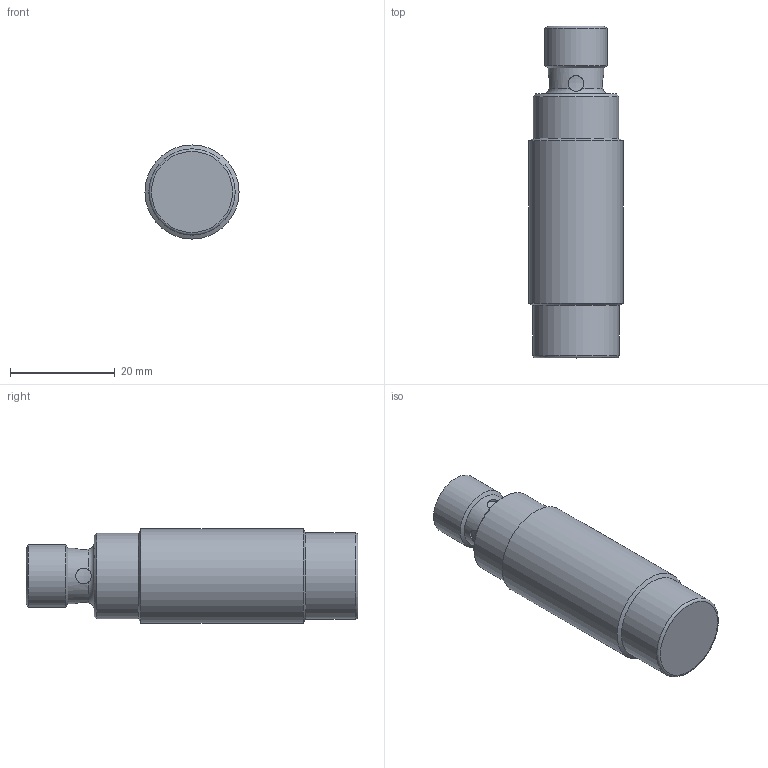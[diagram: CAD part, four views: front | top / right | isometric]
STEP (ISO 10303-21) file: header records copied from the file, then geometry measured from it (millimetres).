
FILE_DESCRIPTION(/* description */ (''),/* implementation_level */ '2;1');
FILE_NAME(/* name */ '3DCAD_IS218MM_4NC_12N_S12.stp',/* time_stamp */ '2016-11-30T10:09:58+01:00',/* author */ ('CC2'),/* organization */ ('Leuze electronic'),/* preprocessor_version */ 'ST-DEVELOPER v15',/* originating_system */ 'SIEMENS PLM Software NX 8.5',/* authorisation */ '');
FILE_SCHEMA (('AUTOMOTIVE_DESIGN { 1 0 10303 214 3 1 1 1 }'));
Length unit declared in the file: millimetre
Products named in the file (1): 19-102523_00.0
Bounding box: 18 x 63.5 x 18 mm (x, y, z)
Volume: 12897.5 mm3; surface area: 4058.5 mm2
Topology: 1 solids, 1 shells, 157 faces, 440 edges, 292 vertices
Faces by surface type: plane 122, cylinder 17, bspline 6, cone 6, sphere 4, torus 2
Full cylindrical faces by diameter (mm): 1 x4, 3 x4, 8.5 x1, 10.55 x1, 12 x1, 16.4 x1, 16.5 x1, 18 x1
Entity records: 5711 total; most frequent: CARTESIAN_POINT 2091, ORIENTED_EDGE 786, DIRECTION 624, EDGE_CURVE 393, VERTEX_POINT 271, LINE 240, VECTOR 240, AXIS2_PLACEMENT_3D 192
